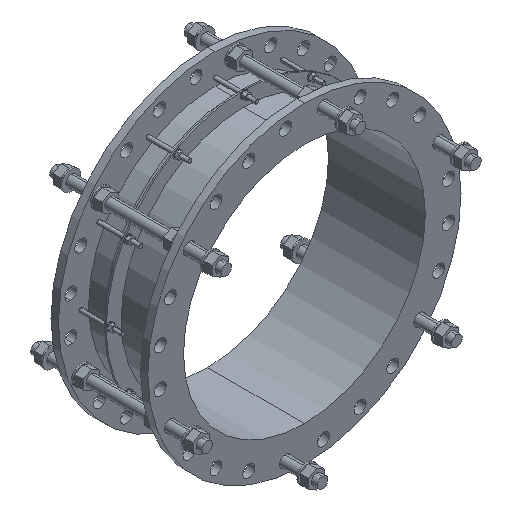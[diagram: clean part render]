
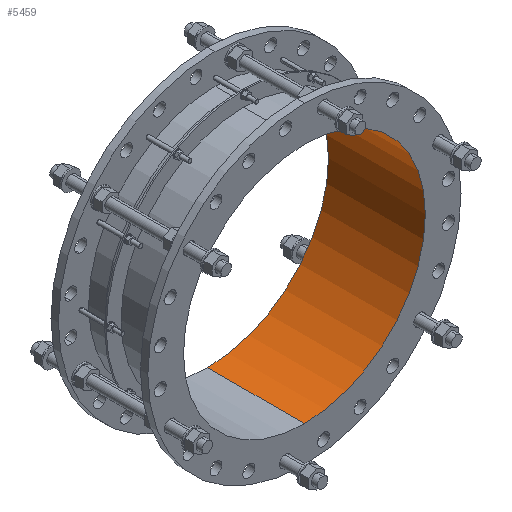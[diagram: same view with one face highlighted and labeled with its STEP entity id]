
A CAD part, isometric view. The second image highlights one B-rep face of the part: STEP entity #5459.
In plain terms, the highlighted cylindrical face has radius 374.5 mm (diameter 749 mm), a partial arc.
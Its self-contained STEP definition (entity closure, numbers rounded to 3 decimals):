
#7=DIRECTION('',(0.,-1.,0.));
#8=VECTOR('',#7,300.);
#9=CARTESIAN_POINT('',(0.,0.,-374.5));
#10=LINE('',#9,#8);
#11=CARTESIAN_POINT('',(0.,0.,0.));
#12=DIRECTION('',(0.,-1.,0.));
#13=DIRECTION('',(0.,0.,-1.));
#14=AXIS2_PLACEMENT_3D('',#11,#12,#13);
#16=DIRECTION('',(0.,-1.,0.));
#17=VECTOR('',#16,300.);
#18=CARTESIAN_POINT('',(0.,0.,374.5));
#19=LINE('',#18,#17);
#1712=CARTESIAN_POINT('',(0.,-300.,0.));
#1713=DIRECTION('',(0.,-1.,0.));
#1714=DIRECTION('',(0.,0.,-1.));
#1715=AXIS2_PLACEMENT_3D('',#1712,#1713,#1714);
#4362=CARTESIAN_POINT('',(0.,0.,-374.5));
#4363=CARTESIAN_POINT('',(0.,-300.,-374.5));
#4364=VERTEX_POINT('',#4362);
#4365=VERTEX_POINT('',#4363);
#4382=CARTESIAN_POINT('',(0.,0.,374.5));
#4383=CARTESIAN_POINT('',(0.,-300.,374.5));
#4384=VERTEX_POINT('',#4382);
#4385=VERTEX_POINT('',#4383);
#5446=CARTESIAN_POINT('',(0.,-315.,0.));
#5447=DIRECTION('',(0.,1.,0.));
#5448=DIRECTION('',(0.,0.,-1.));
#5449=AXIS2_PLACEMENT_3D('',#5446,#5447,#5448);
#5450=CYLINDRICAL_SURFACE('',#5449,374.5);
#5451=ORIENTED_EDGE('',*,*,#5435,.F.);
#5453=ORIENTED_EDGE('',*,*,#5452,.T.);
#5454=ORIENTED_EDGE('',*,*,#5439,.T.);
#5456=ORIENTED_EDGE('',*,*,#5455,.F.);
#5457=EDGE_LOOP('',(#5451,#5453,#5454,#5456));
#5458=FACE_OUTER_BOUND('',#5457,.F.);
#5459=ADVANCED_FACE('',(#5458),#5450,.F.);
#15=CIRCLE('',#14,374.5);
#1716=CIRCLE('',#1715,374.5);
#5435=EDGE_CURVE('',#4364,#4365,#10,.T.);
#5439=EDGE_CURVE('',#4384,#4385,#19,.T.);
#5452=EDGE_CURVE('',#4364,#4384,#15,.T.);
#5455=EDGE_CURVE('',#4365,#4385,#1716,.T.);
